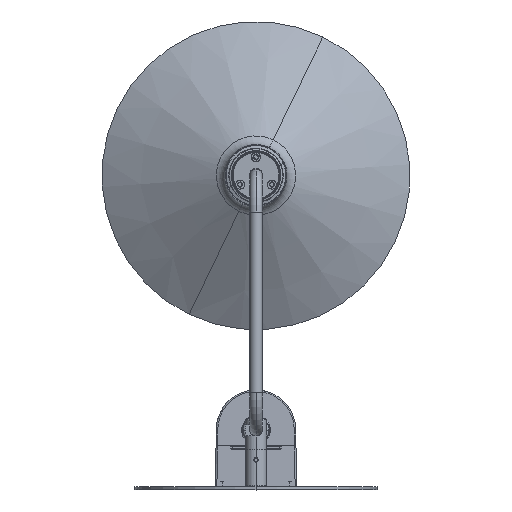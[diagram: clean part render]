
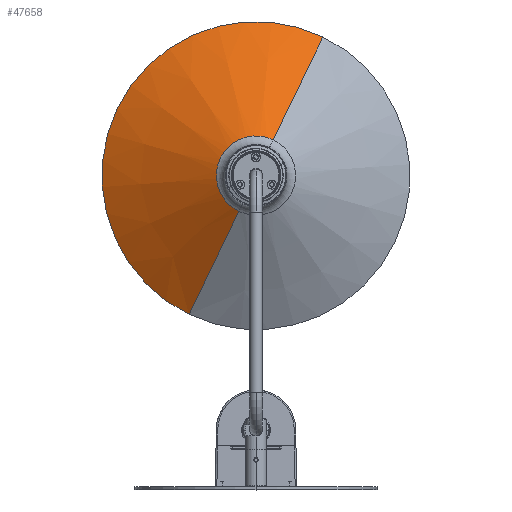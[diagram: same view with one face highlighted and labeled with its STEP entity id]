
A CAD part, top view. The second image highlights one B-rep face of the part: STEP entity #47658.
In plain terms, the highlighted conical face has half-angle 61.027 degrees and reference radius 25.887 mm.
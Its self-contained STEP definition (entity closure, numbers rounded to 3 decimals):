
#1570 = LINE ( 'NONE', #40844, #12756 ) ;
#1735 = EDGE_CURVE ( 'NONE', #65654, #64900, #1570, .T. ) ;
#5076 = DIRECTION ( 'NONE',  ( 0.875, -0.484, 0. ) ) ;
#6042 = DIRECTION ( 'NONE',  ( 0., -1., 0. ) ) ;
#12756 = VECTOR ( 'NONE', #51226, 1000. ) ;
#14462 = CARTESIAN_POINT ( 'NONE',  ( 0., -1.234, 0. ) ) ;
#14848 = CIRCLE ( 'NONE', #51312, 25.887 ) ;
#14938 = AXIS2_PLACEMENT_3D ( 'NONE', #46965, #6042, #51000 ) ;
#15112 = CARTESIAN_POINT ( 'NONE',  ( -25.887, -1.234, 0. ) ) ;
#19342 = EDGE_LOOP ( 'NONE', ( #51620, #22328, #31553, #27015 ) ) ;
#19769 = DIRECTION ( 'NONE',  ( 0., -1., 0. ) ) ;
#22328 = ORIENTED_EDGE ( 'NONE', *, *, #54617, .T. ) ;
#24040 = VERTEX_POINT ( 'NONE', #32475 ) ;
#25030 = FACE_OUTER_BOUND ( 'NONE', #19342, .T. ) ;
#25181 = CONICAL_SURFACE ( 'NONE', #53054, 25.887, 1.065 ) ;
#27015 = ORIENTED_EDGE ( 'NONE', *, *, #36036, .F. ) ;
#30153 = VECTOR ( 'NONE', #5076, 1000. ) ;
#31553 = ORIENTED_EDGE ( 'NONE', *, *, #61936, .T. ) ;
#32475 = CARTESIAN_POINT ( 'NONE',  ( 100.579, -42.591, 0. ) ) ;
#36036 = EDGE_CURVE ( 'NONE', #64900, #24040, #59904, .T. ) ;
#37156 = VERTEX_POINT ( 'NONE', #60917 ) ;
#40844 = CARTESIAN_POINT ( 'NONE',  ( -25.887, -1.234, 0. ) ) ;
#41551 = CARTESIAN_POINT ( 'NONE',  ( 0., -1.234, 0. ) ) ;
#45343 = CARTESIAN_POINT ( 'NONE',  ( 25.887, -1.234, 0. ) ) ;
#45673 = LINE ( 'NONE', #45343, #30153 ) ;
#46593 = CARTESIAN_POINT ( 'NONE',  ( -100.579, -42.591, 0. ) ) ;
#46965 = CARTESIAN_POINT ( 'NONE',  ( 0., -42.591, 0. ) ) ;
#47658 = ADVANCED_FACE ( 'NONE', ( #25030 ), #25181, .T. ) ;
#48693 = DIRECTION ( 'NONE',  ( 0., -1., 0. ) ) ;
#49030 = DIRECTION ( 'NONE',  ( 1., 0., 0. ) ) ;
#51000 = DIRECTION ( 'NONE',  ( 1., 0., 0. ) ) ;
#51226 = DIRECTION ( 'NONE',  ( -0.875, -0.484, 0. ) ) ;
#51312 = AXIS2_PLACEMENT_3D ( 'NONE', #14462, #48693, #49030 ) ;
#51620 = ORIENTED_EDGE ( 'NONE', *, *, #1735, .F. ) ;
#53054 = AXIS2_PLACEMENT_3D ( 'NONE', #41551, #19769, #62010 ) ;
#54617 = EDGE_CURVE ( 'NONE', #65654, #37156, #14848, .T. ) ;
#59904 = CIRCLE ( 'NONE', #14938, 100.579 ) ;
#60917 = CARTESIAN_POINT ( 'NONE',  ( 25.887, -1.234, 0. ) ) ;
#61936 = EDGE_CURVE ( 'NONE', #37156, #24040, #45673, .T. ) ;
#62010 = DIRECTION ( 'NONE',  ( 1., 0., 0. ) ) ;
#64900 = VERTEX_POINT ( 'NONE', #46593 ) ;
#65654 = VERTEX_POINT ( 'NONE', #15112 ) ;
